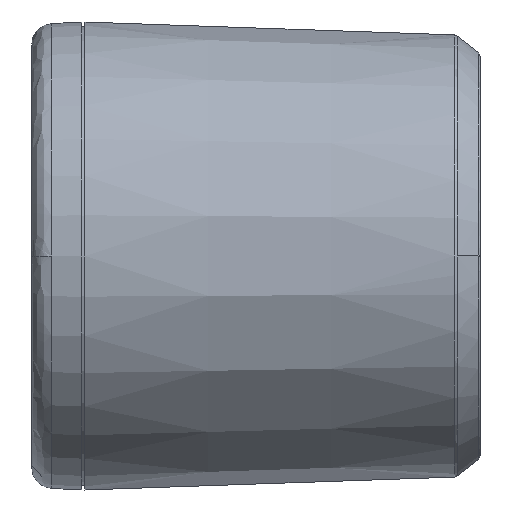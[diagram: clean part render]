
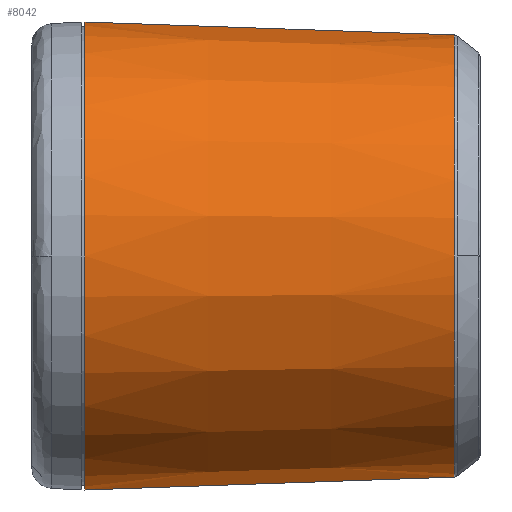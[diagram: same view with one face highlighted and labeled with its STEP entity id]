
A CAD part, left-side view. The second image highlights one B-rep face of the part: STEP entity #8042.
In plain terms, the highlighted conical face has half-angle 2 degrees and reference radius 22.317 mm.
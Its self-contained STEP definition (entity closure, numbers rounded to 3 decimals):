
#623 = LINE ( 'NONE', #943, #44837 ) ;
#943 = CARTESIAN_POINT ( 'NONE',  ( -33.062, 15.91, -22.317 ) ) ;
#1471 = CARTESIAN_POINT ( 'NONE',  ( -53.475, -19.285, -5.468 ) ) ;
#1573 = DIRECTION ( 'NONE',  ( 0., 0.999, 0.035 ) ) ;
#1596 = CARTESIAN_POINT ( 'NONE',  ( -54.149, -19.285, 1.38 ) ) ;
#1973 = CARTESIAN_POINT ( 'NONE',  ( -48.949, -19.285, 13.935 ) ) ;
#2432 = EDGE_LOOP ( 'NONE', ( #51748, #28166, #33252, #3857, #7534 ) ) ;
#3355 = EDGE_CURVE ( 'NONE', #33411, #15306, #623, .T. ) ;
#3857 = ORIENTED_EDGE ( 'NONE', *, *, #46190, .T. ) ;
#4294 = CARTESIAN_POINT ( 'NONE',  ( -33.062, 15.91, -22.317 ) ) ;
#4318 = CARTESIAN_POINT ( 'NONE',  ( -33.062, 15.91, 22.317 ) ) ;
#5598 = CARTESIAN_POINT ( 'NONE',  ( -38.529, -19.285, -20.413 ) ) ;
#5787 = CARTESIAN_POINT ( 'NONE',  ( -54.149, -19.285, -1.38 ) ) ;
#6100 = CIRCLE ( 'NONE', #10942, 22.317 ) ;
#6286 = CARTESIAN_POINT ( 'NONE',  ( -45.925, -19.285, 16.767 ) ) ;
#7534 = ORIENTED_EDGE ( 'NONE', *, *, #52273, .T. ) ;
#8042 = ADVANCED_FACE ( 'NONE', ( #15141 ), #23853, .T. ) ;
#8568 = B_SPLINE_CURVE_WITH_KNOTS ( 'NONE', 3,
 ( #18274, #48282, #31235, #5598, #35561, #9879, #39875, #14172, #44168, #18456, #48454, #22782, #52716, #27090, #1471, #31424, #5787, #35745 ),
 .UNSPECIFIED., .F., .F.,
 ( 4, 2, 2, 2, 2, 2, 2, 2, 4 ),
 ( 0.209, 0.308, 0.406, 0.505, 0.604, 0.703, 0.802, 0.901, 1. ),
 .UNSPECIFIED. ) ;
#8595 = DIRECTION ( 'NONE',  ( 0., 1., 0. ) ) ;
#9879 = CARTESIAN_POINT ( 'NONE',  ( -42.407, -19.285, -18.954 ) ) ;
#10577 = CARTESIAN_POINT ( 'NONE',  ( -42.407, -19.285, 18.954 ) ) ;
#10942 = AXIS2_PLACEMENT_3D ( 'NONE', #50771, #25114, #55035 ) ;
#12539 = AXIS2_PLACEMENT_3D ( 'NONE', #29547, #8595, #38582 ) ;
#14172 = CARTESIAN_POINT ( 'NONE',  ( -45.925, -19.285, -16.767 ) ) ;
#14859 = CARTESIAN_POINT ( 'NONE',  ( -38.529, -19.285, 20.413 ) ) ;
#15141 = FACE_OUTER_BOUND ( 'NONE', #2432, .T. ) ;
#15306 = VERTEX_POINT ( 'NONE', #4294 ) ;
#18274 = CARTESIAN_POINT ( 'NONE',  ( -33.062, -19.285, -21.088 ) ) ;
#18456 = CARTESIAN_POINT ( 'NONE',  ( -48.949, -19.285, -13.935 ) ) ;
#18968 = CARTESIAN_POINT ( 'NONE',  ( -53.475, -19.285, 5.468 ) ) ;
#19156 = CARTESIAN_POINT ( 'NONE',  ( -34.442, -19.285, 21.088 ) ) ;
#19569 = LINE ( 'NONE', #27197, #32337 ) ;
#22782 = CARTESIAN_POINT ( 'NONE',  ( -51.362, -19.285, -10.568 ) ) ;
#22883 = CARTESIAN_POINT ( 'NONE',  ( -33.062, -19.285, 21.088 ) ) ;
#22917 = CARTESIAN_POINT ( 'NONE',  ( -54.149, -19.285, 0. ) ) ;
#23301 = CARTESIAN_POINT ( 'NONE',  ( -52.016, -19.285, 9.345 ) ) ;
#23688 = B_SPLINE_CURVE_WITH_KNOTS ( 'NONE', 3,
 ( #22917, #1596, #44663, #18968, #48962, #23301, #53222, #27596, #1973, #31924, #6286, #36251, #10577, #40565, #14859, #44850, #19156, #49135 ),
 .UNSPECIFIED., .F., .F.,
 ( 4, 2, 2, 2, 2, 2, 2, 2, 4 ),
 ( 0., 0.099, 0.198, 0.297, 0.396, 0.495, 0.594, 0.692, 0.791 ),
 .UNSPECIFIED. ) ;
#23853 = CONICAL_SURFACE ( 'NONE', #12539, 22.317, 0.035 ) ;
#25114 = DIRECTION ( 'NONE',  ( 0., -1., 0. ) ) ;
#27090 = CARTESIAN_POINT ( 'NONE',  ( -53.072, -19.285, -6.795 ) ) ;
#27197 = CARTESIAN_POINT ( 'NONE',  ( -33.062, 15.91, 22.317 ) ) ;
#27596 = CARTESIAN_POINT ( 'NONE',  ( -49.829, -19.285, 12.863 ) ) ;
#28166 = ORIENTED_EDGE ( 'NONE', *, *, #48224, .T. ) ;
#29547 = CARTESIAN_POINT ( 'NONE',  ( -33.062, 15.91, 0. ) ) ;
#30904 = DIRECTION ( 'NONE',  ( 0., 0.999, -0.035 ) ) ;
#31235 = CARTESIAN_POINT ( 'NONE',  ( -35.822, -19.285, -20.952 ) ) ;
#31424 = CARTESIAN_POINT ( 'NONE',  ( -54.014, -19.285, -2.76 ) ) ;
#31924 = CARTESIAN_POINT ( 'NONE',  ( -46.997, -19.285, 15.887 ) ) ;
#32337 = VECTOR ( 'NONE', #1573, 1000. ) ;
#33252 = ORIENTED_EDGE ( 'NONE', *, *, #40039, .T. ) ;
#33411 = VERTEX_POINT ( 'NONE', #53002 ) ;
#35561 = CARTESIAN_POINT ( 'NONE',  ( -39.856, -19.285, -20.011 ) ) ;
#35745 = CARTESIAN_POINT ( 'NONE',  ( -54.149, -19.285, 0. ) ) ;
#36251 = CARTESIAN_POINT ( 'NONE',  ( -43.63, -19.285, 18.301 ) ) ;
#37839 = VERTEX_POINT ( 'NONE', #43996 ) ;
#38582 = DIRECTION ( 'NONE',  ( 0., 0., 1. ) ) ;
#39165 = VERTEX_POINT ( 'NONE', #4318 ) ;
#39875 = CARTESIAN_POINT ( 'NONE',  ( -43.63, -19.285, -18.301 ) ) ;
#40039 = EDGE_CURVE ( 'NONE', #37839, #50373, #23688, .T. ) ;
#40565 = CARTESIAN_POINT ( 'NONE',  ( -39.856, -19.285, 20.011 ) ) ;
#43996 = CARTESIAN_POINT ( 'NONE',  ( -54.149, -19.285, 0. ) ) ;
#44168 = CARTESIAN_POINT ( 'NONE',  ( -46.997, -19.285, -15.887 ) ) ;
#44663 = CARTESIAN_POINT ( 'NONE',  ( -54.014, -19.285, 2.76 ) ) ;
#44837 = VECTOR ( 'NONE', #30904, 1000. ) ;
#44850 = CARTESIAN_POINT ( 'NONE',  ( -35.822, -19.285, 20.952 ) ) ;
#46190 = EDGE_CURVE ( 'NONE', #50373, #39165, #19569, .T. ) ;
#48224 = EDGE_CURVE ( 'NONE', #33411, #37839, #8568, .T. ) ;
#48282 = CARTESIAN_POINT ( 'NONE',  ( -34.442, -19.285, -21.088 ) ) ;
#48454 = CARTESIAN_POINT ( 'NONE',  ( -49.829, -19.285, -12.863 ) ) ;
#48962 = CARTESIAN_POINT ( 'NONE',  ( -53.072, -19.285, 6.795 ) ) ;
#49135 = CARTESIAN_POINT ( 'NONE',  ( -33.062, -19.285, 21.088 ) ) ;
#50373 = VERTEX_POINT ( 'NONE', #22883 ) ;
#50771 = CARTESIAN_POINT ( 'NONE',  ( -33.062, 15.91, 0. ) ) ;
#51748 = ORIENTED_EDGE ( 'NONE', *, *, #3355, .F. ) ;
#52273 = EDGE_CURVE ( 'NONE', #39165, #15306, #6100, .T. ) ;
#52716 = CARTESIAN_POINT ( 'NONE',  ( -52.016, -19.285, -9.345 ) ) ;
#53002 = CARTESIAN_POINT ( 'NONE',  ( -33.062, -19.285, -21.088 ) ) ;
#53222 = CARTESIAN_POINT ( 'NONE',  ( -51.362, -19.285, 10.568 ) ) ;
#55035 = DIRECTION ( 'NONE',  ( 0., 0., 1. ) ) ;
